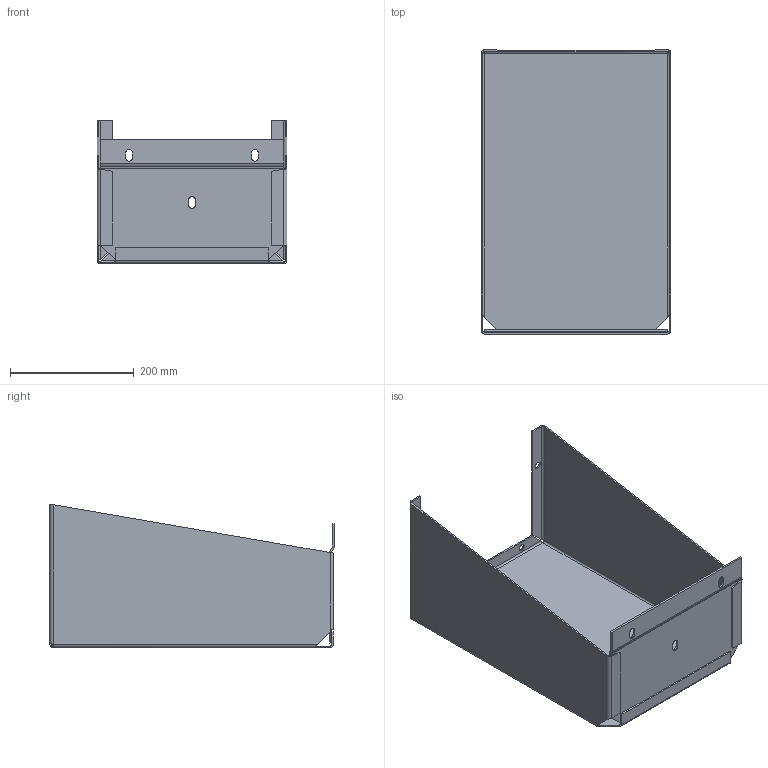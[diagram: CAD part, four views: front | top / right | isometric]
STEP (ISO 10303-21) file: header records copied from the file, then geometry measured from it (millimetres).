
FILE_DESCRIPTION (( 'STEP AP203' ), '1' );
FILE_NAME ('27221.step', '2014-03-07T07:49:42', ( '' ), ( '' ), 'SwSTEP 2.0', 'SolidWorks 2010', '' );
FILE_SCHEMA (( 'CONFIG_CONTROL_DESIGN' ));
Length unit declared in the file: inch
Products named in the file (4): 27221; 89106243; 89106198; 27209001
Assembly tree (3 placements, depth 3):
  27221
    89106243
      27209001
      89106198
Bounding box: 306.37 x 458.37 x 230.96 mm (x, y, z)
Volume: 983312.4 mm3; surface area: 791915.8 mm2
Topology: 2 solids, 2 shells, 182 faces, 445 edges, 270 vertices
Faces by surface type: plane 94, bspline 51, cylinder 37
Entity records: 7205 total; most frequent: CARTESIAN_POINT 2893, ORIENTED_EDGE 890, DIRECTION 641, EDGE_CURVE 445, VERTEX_POINT 270, LINE 257, VECTOR 257, EDGE_LOOP 199
